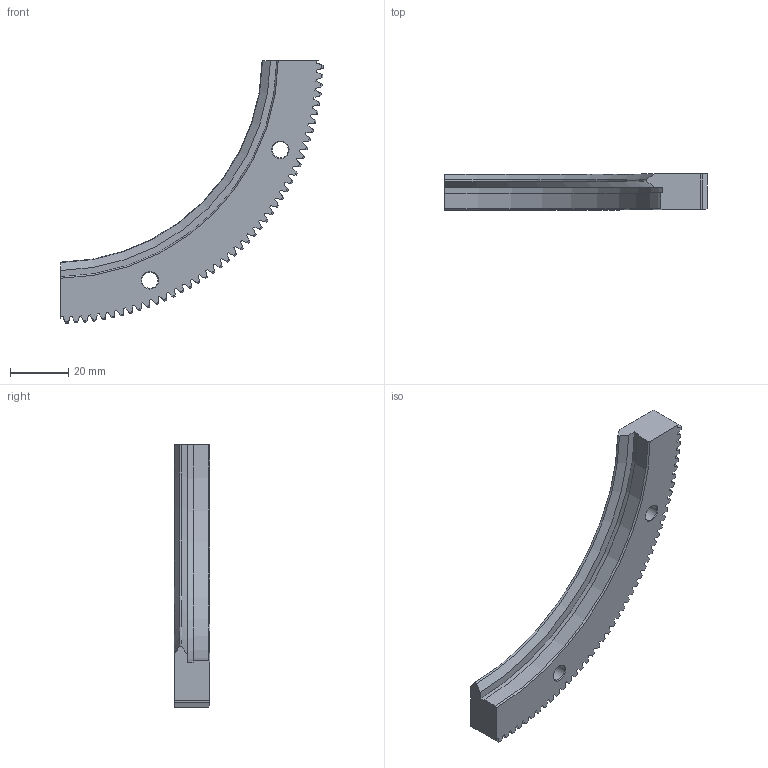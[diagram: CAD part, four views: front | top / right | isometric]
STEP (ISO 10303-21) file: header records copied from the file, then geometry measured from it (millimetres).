
FILE_DESCRIPTION( ( 'STEP AP203' ), '1' );
FILE_NAME( 'p:/temp/worker_79/temp/exporttempdir_6088_47_nyWm7/format_0/RIS 182 R90 P.stp', '2021-09-01T01:41:19', ( 'License CC BY-ND 4.0' ), ( 'CADENAS' ), ' ', 'PARTsolutions', ' ' );
FILE_SCHEMA( ( 'CONFIG_CONTROL_DESIGN' ) );
Length unit declared in the file: millimetre
Products named in the file (1): _RIS 182 R90 P
Bounding box: 89.96 x 12.25 x 89.96 mm (x, y, z)
Volume: 23930.8 mm3; surface area: 10347.1 mm2
Topology: 1 solids, 1 shells, 288 faces, 850 edges, 566 vertices
Faces by surface type: plane 188, cylinder 50, cone 49, torus 1
Full cylindrical faces by diameter (mm): 5.5 x2, 10 x2
Entity records: 9679 total; most frequent: CARTESIAN_POINT 1999, ORIENTED_EDGE 1688, DIRECTION 1477, EDGE_CURVE 844, LINE 597, VECTOR 597, VERTEX_POINT 566, AXIS2_PLACEMENT_3D 440
